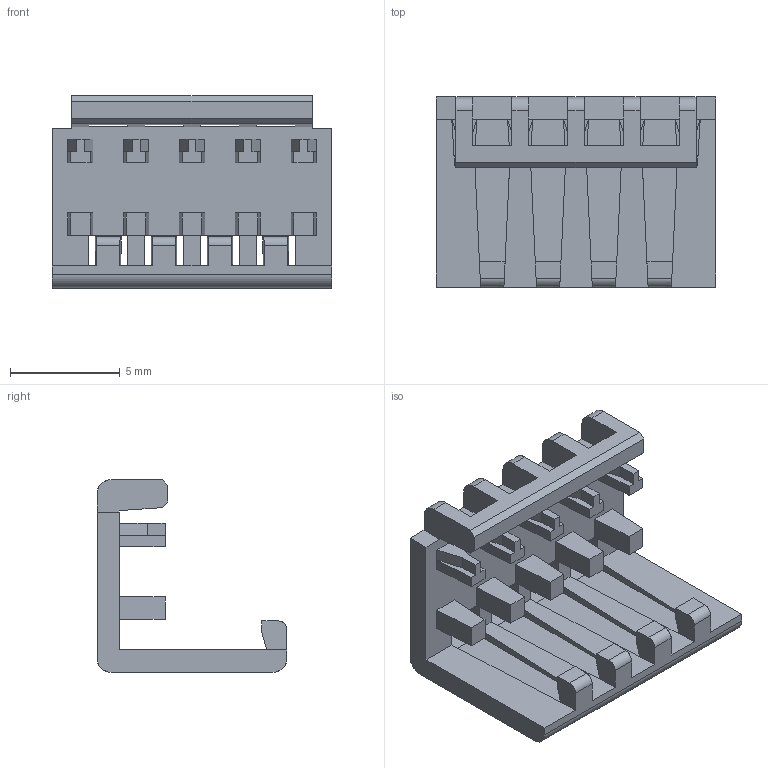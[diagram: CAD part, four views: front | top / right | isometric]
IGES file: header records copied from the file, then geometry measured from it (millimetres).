
Start section: SolidWorks IGES file using analytic representation for surfaces
Global section: file name: C:\Users\kkamath\Desktop\Acessories\16685r1.igs; native system: SolidWorks 2010; preprocessor: SolidWorks 2010; author: kkamath; date: 110711.100204; units: inch
Bounding box: 12.7 x 8.64 x 8.76 mm (x, y, z)
Surface area: 642.9 mm2 (no closed solid volume)
Topology: 0 solids, 0 shells, 170 faces, 1048 edges, 1048 vertices
Faces by surface type: bspline 159, revolution 11
